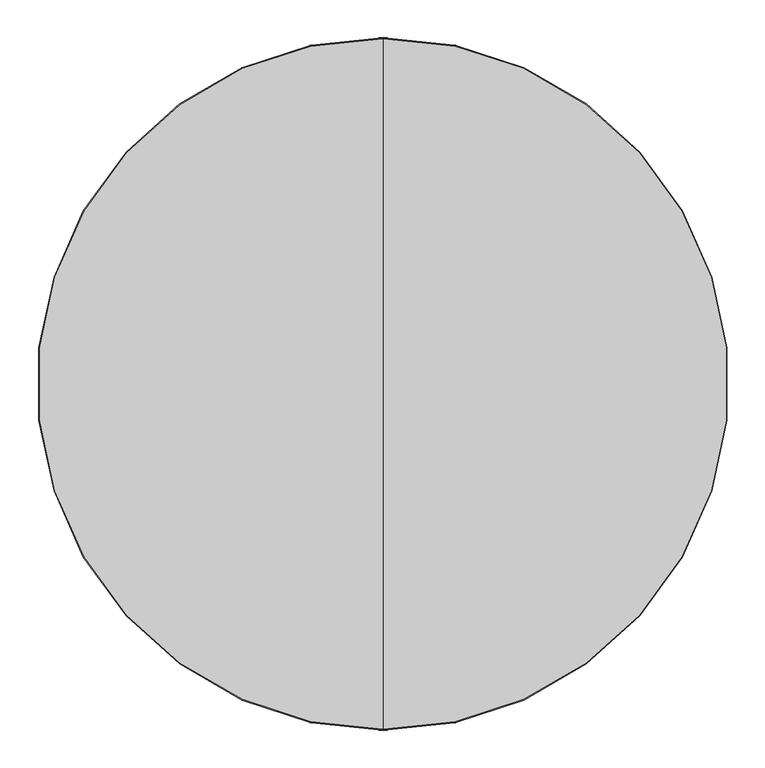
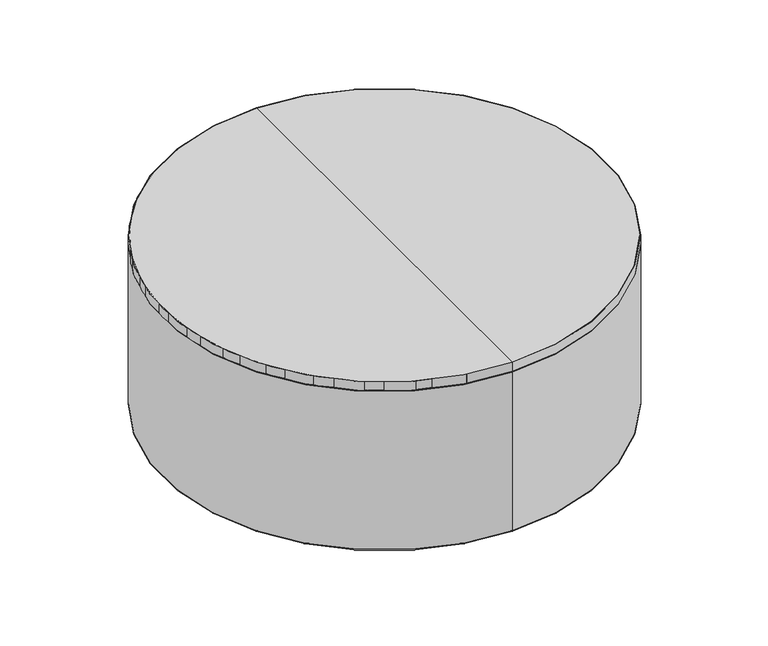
"""IFC4 building model written with IfcOpenShell, lengths in millimetres: furniture geometry, Indiana-Otty-Ottoman_Round_Table : 840-3615ROT."""

from ifc_helpers import new_model, si_unit, point, frame, origin, place, context, project, spatial, polyline, circle_curve, ellipse_curve, trimmed, source, transform, mapped, element, save
from ifc_brep_helpers import plane_surface, cylinder_surface, revolved_surface, advanced_brep


def furniture_d7e150b2(model_context):
    return source(origin(), model_context, "Body", "AdvancedBrep", [
        advanced_brep(
        [(374.4189295, 85.5904719, 19.8875), (354.9333579, 96.8404719, 19.8875), (393.9045011, 74.3404719, 19.8875), (355.3217632, 96.616226, 4.2458827), (393.5160958, 74.5647178, 4.2458827), (359.2060099, 94.3736551, -0.1125), (389.6318491, 76.8072887, -0.1125), (365.5269116, 90.7242808, -0.1125), (383.3109474, 80.456663, -0.1125), (368.8996269, 88.7770427, 3.9179615), (379.9382321, 82.4039011, 3.9179615), (374.4189295, 85.5904719, 3.9179615)],
        [
            (0, 1),
            (1, 2, circle_curve(frame((374.4189295, 85.5904719, 19.8875), z_axis=(0.0, 0.0, 1.0), x_axis=(-0.8660254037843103, 0.5000000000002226, 0.0)), 22.5)),
            (2, 0),
            (2, 1, circle_curve(frame((374.4189295, 85.5904719, 19.8875), z_axis=(0.0, 0.0, 1.0), x_axis=(-0.8660254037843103, 0.5000000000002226, 0.0)), 22.5)),
            (1, 3),
            (3, 4, circle_curve(frame((374.4189295, 85.5904719, 4.2458827), z_axis=(0.0, 0.0, 1.0), x_axis=(-0.8660254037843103, 0.5000000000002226, 0.0)), 22.0515082)),
            (4, 2),
            (4, 3, circle_curve(frame((374.4189295, 85.5904719, 4.2458827), z_axis=(0.0, 0.0, 1.0), x_axis=(-0.8660254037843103, 0.5000000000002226, 0.0)), 22.0515082)),
            (3, 5, circle_curve(frame((359.2060099, 94.3736551, 4.3744851), z_axis=(-0.5000000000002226, -0.8660254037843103, 0.0), x_axis=(0.8660254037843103, -0.5000000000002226, 0.0)), 4.4869851)),
            (5, 6, circle_curve(frame((374.4189295, 85.5904719, -0.1125), z_axis=(0.0, 0.0, 1.0), x_axis=(-0.8660254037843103, 0.5000000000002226, 0.0)), 17.5663665)),
            (6, 4, circle_curve(frame((389.6318491, 76.8072887, 4.3744851), z_axis=(-0.5000000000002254, -0.8660254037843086, 0.0), x_axis=(-0.8660254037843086, 0.5000000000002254, 0.0)), 4.4869851)),
            (6, 5, circle_curve(frame((374.4189295, 85.5904719, -0.1125), z_axis=(0.0, 0.0, 1.0), x_axis=(-0.8660254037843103, 0.5000000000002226, 0.0)), 17.5663665)),
            (5, 7),
            (7, 8, circle_curve(frame((374.4189295, 85.5904719, -0.1125), z_axis=(0.0, 0.0, 1.0), x_axis=(-0.8660254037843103, 0.5000000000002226, 0.0)), 10.2676178)),
            (8, 6),
            (8, 7, circle_curve(frame((374.4189295, 85.5904719, -0.1125), z_axis=(0.0, 0.0, 1.0), x_axis=(-0.8660254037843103, 0.5000000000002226, 0.0)), 10.2676178)),
            (7, 9, circle_curve(frame((365.5269116, 90.7242808, 3.7842702), z_axis=(-0.5000000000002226, -0.8660254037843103, 0.0), x_axis=(0.8660254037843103, -0.5000000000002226, 0.0)), 3.8967702)),
            (9, 10, circle_curve(frame((374.4189295, 85.5904719, 3.9179615), z_axis=(0.0, 0.0, 1.0), x_axis=(-0.8660254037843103, 0.5000000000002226, 0.0)), 6.3731417)),
            (10, 8, circle_curve(frame((383.3109474, 80.456663, 3.7842702), z_axis=(-0.5000000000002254, -0.8660254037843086, 0.0), x_axis=(-0.8660254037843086, 0.5000000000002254, 0.0)), 3.8967702)),
            (10, 9, circle_curve(frame((374.4189295, 85.5904719, 3.9179615), z_axis=(0.0, 0.0, 1.0), x_axis=(-0.8660254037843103, 0.5000000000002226, 0.0)), 6.3731417)),
            (9, 11),
            (11, 10),
        ],
        [
            plane_surface(frame((374.4189295, 85.5904719, 19.8875), z_axis=(0.0, 0.0, 1.0000000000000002), x_axis=(-0.8660254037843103, 0.5000000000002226, 0.0))),
            revolved_surface(polyline([(355.3217632, 96.616226, 4.2458827), (354.9333579, 96.8404719, 19.8875)]), (374.4189295, 85.5904719, 31.0803862), (0.0, 0.0, 1.0)),
            revolved_surface(trimmed(ellipse_curve(frame((359.2060099, 94.3736551, 4.3744851), z_axis=(0.5000000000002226, 0.8660254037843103, 0.0), x_axis=(0.8660254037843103, -0.5000000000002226, 0.0)), 4.4869851, 4.4869851), [point((359.2060099, 94.3736551, -0.1125))], [point((355.3217632, 96.616226, 4.2458827))], True, "CARTESIAN"), (374.4189295, 85.5904719, 31.0803862), (0.0, 0.0, 1.0)),
            plane_surface(frame((374.4189295, 85.5904719, -0.1125), z_axis=(0.0, 0.0, -1.0000000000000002), x_axis=(-0.8660254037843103, 0.5000000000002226, 0.0))),
            revolved_surface(trimmed(ellipse_curve(frame((365.5269116, 90.7242808, 3.7842702), z_axis=(0.5000000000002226, 0.8660254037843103, 0.0), x_axis=(0.8660254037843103, -0.5000000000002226, 0.0)), 3.8967702, 3.8967702), [point((368.8996269, 88.7770427, 3.9179615))], [point((365.5269116, 90.7242808, -0.1125))], True, "CARTESIAN"), (374.4189295, 85.5904719, 31.0803862), (0.0, 0.0, 1.0)),
            plane_surface(frame((374.4189295, 85.5904719, 3.9179615), z_axis=(0.0, 0.0, -1.0000000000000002), x_axis=(-0.8660254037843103, 0.5000000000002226, 0.0))),
        ],
        [
            (0, [[1, 2, 3]]),
            (0, [[-3, 4, -1]]),
            (1, [[-2, 5, 6, 7]]),
            (1, [[-4, -7, 8, -5]]),
            (2, [[-6, 9, 10, 11]]),
            (2, [[-8, -11, 12, -9]]),
            (3, [[-10, 13, 14, 15]]),
            (3, [[-12, -15, 16, -13]]),
            (4, [[-14, 17, 18, 19]]),
            (4, [[-16, -19, 20, -17]]),
            (5, [[-18, 21, 22]]),
            (5, [[-20, -22, -21]]),
        ],
    ),
        advanced_brep(
        [(261.3329878, -281.4610687, 19.8875), (261.3329878, -258.9610687, 19.8875), (261.3329878, -303.9610687, 19.8875), (261.3329878, -259.4095604, 4.2458827), (261.3329878, -303.5125769, 4.2458827), (261.3329878, -263.8947022, -0.1125), (261.3329878, -299.0274351, -0.1125), (261.3329878, -271.1934508, -0.1125), (261.3329878, -291.7286865, -0.1125), (261.3329878, -275.087927, 3.9179615), (261.3329878, -287.8342103, 3.9179615), (261.3329878, -281.4610687, 3.9179615)],
        [
            (0, 1),
            (1, 2, circle_curve(frame((261.3329878, -281.4610687, 19.8875), z_axis=(0.0, 0.0, 1.0), x_axis=(0.0, 1.0, 0.0)), 22.5)),
            (2, 0),
            (2, 1, circle_curve(frame((261.3329878, -281.4610687, 19.8875), z_axis=(0.0, 0.0, 1.0), x_axis=(0.0, 1.0, 0.0)), 22.5)),
            (1, 3),
            (3, 4, circle_curve(frame((261.3329878, -281.4610687, 4.2458827), z_axis=(0.0, 0.0, 1.0), x_axis=(0.0, 1.0, 0.0)), 22.0515082)),
            (4, 2),
            (4, 3, circle_curve(frame((261.3329878, -281.4610687, 4.2458827), z_axis=(0.0, 0.0, 1.0), x_axis=(0.0, 1.0, 0.0)), 22.0515082)),
            (3, 5, circle_curve(frame((261.3329878, -263.8947022, 4.3744851), z_axis=(-1.0, 0.0, 0.0), x_axis=(0.0, -1.0, 0.0)), 4.4869851)),
            (5, 6, circle_curve(frame((261.3329878, -281.4610687, -0.1125), z_axis=(0.0, 0.0, 1.0), x_axis=(0.0, 1.0, 0.0)), 17.5663665)),
            (6, 4, circle_curve(frame((261.3329878, -299.0274351, 4.3744851), z_axis=(-1.0, 0.0, 0.0), x_axis=(0.0, 1.0, 0.0)), 4.4869851)),
            (6, 5, circle_curve(frame((261.3329878, -281.4610687, -0.1125), z_axis=(0.0, 0.0, 1.0), x_axis=(0.0, 1.0, 0.0)), 17.5663665)),
            (5, 7),
            (7, 8, circle_curve(frame((261.3329878, -281.4610687, -0.1125), z_axis=(0.0, 0.0, 1.0), x_axis=(0.0, 1.0, 0.0)), 10.2676178)),
            (8, 6),
            (8, 7, circle_curve(frame((261.3329878, -281.4610687, -0.1125), z_axis=(0.0, 0.0, 1.0), x_axis=(0.0, 1.0, 0.0)), 10.2676178)),
            (7, 9, circle_curve(frame((261.3329878, -271.1934508, 3.7842702), z_axis=(-1.0, 0.0, 0.0), x_axis=(0.0, -1.0, 0.0)), 3.8967702)),
            (9, 10, circle_curve(frame((261.3329878, -281.4610687, 3.9179615), z_axis=(0.0, 0.0, 1.0), x_axis=(0.0, 1.0, 0.0)), 6.3731417)),
            (10, 8, circle_curve(frame((261.3329878, -291.7286865, 3.7842702), z_axis=(-1.0, 0.0, 0.0), x_axis=(0.0, 1.0, 0.0)), 3.8967702)),
            (10, 9, circle_curve(frame((261.3329878, -281.4610687, 3.9179615), z_axis=(0.0, 0.0, 1.0), x_axis=(0.0, 1.0, 0.0)), 6.3731417)),
            (9, 11),
            (11, 10),
        ],
        [
            plane_surface(frame((261.3329878, -281.4610687, 19.8875), z_axis=(0.0, 0.0, 1.0), x_axis=(0.0, 1.0, 0.0))),
            revolved_surface(polyline([(261.3329878, -259.4095604, 4.2458827), (261.3329878, -258.9610687, 19.8875)]), (261.3329878, -281.4610687, 31.0803862), (0.0, 0.0, 1.0)),
            revolved_surface(trimmed(ellipse_curve(frame((261.3329878, -263.8947022, 4.3744851), z_axis=(1.0, 0.0, 0.0), x_axis=(0.0, -1.0, 0.0)), 4.4869851, 4.4869851), [point((261.3329878, -263.8947022, -0.1125))], [point((261.3329878, -259.4095604, 4.2458827))], True, "CARTESIAN"), (261.3329878, -281.4610687, 31.0803862), (0.0, 0.0, 1.0)),
            plane_surface(frame((261.3329878, -281.4610687, -0.1125), z_axis=(0.0, 0.0, -1.0), x_axis=(0.0, 1.0, 0.0))),
            revolved_surface(trimmed(ellipse_curve(frame((261.3329878, -271.1934508, 3.7842702), z_axis=(1.0, 0.0, 0.0), x_axis=(0.0, -1.0, 0.0)), 3.8967702, 3.8967702), [point((261.3329878, -275.087927, 3.9179615))], [point((261.3329878, -271.1934508, -0.1125))], True, "CARTESIAN"), (261.3329878, -281.4610687, 31.0803862), (0.0, 0.0, 1.0)),
            plane_surface(frame((261.3329878, -281.4610687, 3.9179615), z_axis=(0.0, 0.0, -1.0), x_axis=(0.0, 1.0, 0.0))),
        ],
        [
            (0, [[1, 2, 3]]),
            (0, [[-3, 4, -1]]),
            (1, [[-2, 5, 6, 7]]),
            (1, [[-4, -7, 8, -5]]),
            (2, [[-6, 9, 10, 11]]),
            (2, [[-8, -11, 12, -9]]),
            (3, [[-10, 13, 14, 15]]),
            (3, [[-12, -15, 16, -13]]),
            (4, [[-14, 17, 18, 19]]),
            (4, [[-16, -19, 20, -17]]),
            (5, [[-18, 21, 22]]),
            (5, [[-20, -22, -21]]),
        ],
    ),
        advanced_brep(
        [(0.0, -456.2078125, 361.95), (0.0, 456.2078125, 361.95), (0.0, 0.0, 361.95), (0.0, -456.2078125, 381.0), (0.0, 456.2078125, 381.0), (0.0, 0.0, 381.0)],
        [
            (0, 1, circle_curve(frame((0.0, 0.0, 361.95), z_axis=(0.0, 0.0, -1.0), x_axis=(0.0, 1.0, 0.0)), 456.2078125)),
            (1, 2),
            (2, 0),
            (1, 0, circle_curve(frame((0.0, 0.0, 361.95), z_axis=(0.0, 0.0, -1.0), x_axis=(0.0, 1.0, 0.0)), 456.2078125)),
            (3, 4, circle_curve(frame((0.0, 0.0, 381.0), z_axis=(0.0, 0.0, -1.0), x_axis=(0.0, 1.0, 0.0)), 456.2078125)),
            (4, 1),
            (0, 3),
            (4, 3, circle_curve(frame((0.0, 0.0, 381.0), z_axis=(0.0, 0.0, -1.0), x_axis=(0.0, 1.0, 0.0)), 456.2078125)),
            (5, 4),
            (3, 5),
        ],
        [
            plane_surface(frame((0.0, 0.0, 361.95), z_axis=(0.0, 0.0, -1.0), x_axis=(0.0, 1.0, 0.0))),
            cylinder_surface(frame((0.0, 0.0, 387.35), z_axis=(0.0, 0.0, 1.0), x_axis=(0.0, 1.0, 0.0)), 456.2078125),
            plane_surface(frame((0.0, 0.0, 381.0), z_axis=(0.0, 0.0, 1.0), x_axis=(0.0, 1.0, 0.0))),
        ],
        [
            (0, [[1, 2, 3]]),
            (0, [[4, -3, -2]]),
            (1, [[5, 6, -1, 7]]),
            (1, [[8, -7, -4, -6]]),
            (2, [[9, -5, 10]]),
            (2, [[-10, -8, -9]]),
        ],
    ),
        advanced_brep(
        [(0.0, -456.2078125, 361.95), (0.0, 456.2078125, 361.95), (0.0, 456.2078125, 381.0), (0.0, -456.2078125, 381.0), (0.0, -457.2, 361.95), (0.0, 457.2, 361.95), (0.0, -457.2, 381.0), (0.0, 457.2, 381.0)],
        [
            (0, 1, circle_curve(frame((0.0, 0.0, 361.95), z_axis=(0.0, 0.0, -1.0), x_axis=(0.0, 1.0, 0.0)), 456.2078125)),
            (1, 2),
            (2, 3, circle_curve(frame((0.0, 0.0, 381.0), z_axis=(0.0, 0.0, 1.0), x_axis=(0.0, 1.0, 0.0)), 456.2078125)),
            (3, 0),
            (1, 0, circle_curve(frame((0.0, 0.0, 361.95), z_axis=(0.0, 0.0, -1.0), x_axis=(0.0, 1.0, 0.0)), 456.2078125)),
            (3, 2, circle_curve(frame((0.0, 0.0, 381.0), z_axis=(0.0, 0.0, 1.0), x_axis=(0.0, 1.0, 0.0)), 456.2078125)),
            (4, 5, circle_curve(frame((0.0, 0.0, 361.95), z_axis=(0.0, 0.0, -1.0), x_axis=(0.0, 1.0, 0.0)), 457.2)),
            (5, 1),
            (0, 4),
            (5, 4, circle_curve(frame((0.0, 0.0, 361.95), z_axis=(0.0, 0.0, -1.0), x_axis=(0.0, 1.0, 0.0)), 457.2)),
            (6, 7, circle_curve(frame((0.0, 0.0, 381.0), z_axis=(0.0, 0.0, -1.0), x_axis=(0.0, 1.0, 0.0)), 457.2)),
            (7, 5),
            (4, 6),
            (7, 6, circle_curve(frame((0.0, 0.0, 381.0), z_axis=(0.0, 0.0, -1.0), x_axis=(0.0, 1.0, 0.0)), 457.2)),
            (2, 7),
            (6, 3),
        ],
        [
            revolved_surface(polyline([(0.0, 456.2078125, 381.0), (0.0, 456.2078125, 361.95)]), (0.0, 0.0, 400.05), (0.0, 0.0, 1.0)),
            plane_surface(frame((0.0, 0.0, 361.95), z_axis=(0.0, 0.0, -1.0), x_axis=(0.0, 1.0, 0.0))),
            cylinder_surface(frame((0.0, 0.0, 400.05), z_axis=(0.0, 0.0, 1.0), x_axis=(0.0, 1.0, 0.0)), 457.2),
            plane_surface(frame((0.0, 0.0, 381.0), z_axis=(0.0, 0.0, 1.0), x_axis=(0.0, 1.0, 0.0))),
        ],
        [
            (0, [[1, 2, 3, 4]]),
            (0, [[5, -4, 6, -2]]),
            (1, [[7, 8, -1, 9]]),
            (1, [[10, -9, -5, -8]]),
            (2, [[11, 12, -7, 13]]),
            (2, [[14, -13, -10, -12]]),
            (3, [[-3, 15, -11, 16]]),
            (3, [[-6, -16, -14, -15]]),
        ],
    ),
        advanced_brep(
        [(-113.0859418, -367.0515406, 19.8875), (-93.6003702, -355.8015406, 19.8875), (-132.5715133, -378.3015406, 19.8875), (-93.9887754, -356.0257864, 4.2458827), (-132.1831081, -378.0772947, 4.2458827), (-97.8730221, -358.2683573, -0.1125), (-128.2988614, -375.8347238, -0.1125), (-104.1939239, -361.9177316, -0.1125), (-121.9779596, -372.1853495, -0.1125), (-107.5666392, -363.8649697, 3.9179615), (-118.6052443, -370.2381114, 3.9179615), (-113.0859418, -367.0515406, 3.9179615)],
        [
            (0, 1),
            (1, 2, circle_curve(frame((-113.0859418, -367.0515406, 19.8875), z_axis=(0.0, 0.0, 1.0), x_axis=(0.866025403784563, 0.49999999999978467, 0.0)), 22.5)),
            (2, 0),
            (2, 1, circle_curve(frame((-113.0859418, -367.0515406, 19.8875), z_axis=(0.0, 0.0, 1.0), x_axis=(0.866025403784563, 0.49999999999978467, 0.0)), 22.5)),
            (1, 3),
            (3, 4, circle_curve(frame((-113.0859418, -367.0515406, 4.2458827), z_axis=(0.0, 0.0, 1.0), x_axis=(0.866025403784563, 0.49999999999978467, 0.0)), 22.0515082)),
            (4, 2),
            (4, 3, circle_curve(frame((-113.0859418, -367.0515406, 4.2458827), z_axis=(0.0, 0.0, 1.0), x_axis=(0.866025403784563, 0.49999999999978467, 0.0)), 22.0515082)),
            (3, 5, circle_curve(frame((-97.8730221, -358.2683573, 4.3744851), z_axis=(-0.49999999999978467, 0.866025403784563, 0.0), x_axis=(-0.866025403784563, -0.49999999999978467, 0.0)), 4.4869851)),
            (5, 6, circle_curve(frame((-113.0859418, -367.0515406, -0.1125), z_axis=(0.0, 0.0, 1.0), x_axis=(0.866025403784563, 0.49999999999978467, 0.0)), 17.5663665)),
            (6, 4, circle_curve(frame((-128.2988614, -375.8347238, 4.3744851), z_axis=(-0.4999999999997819, 0.8660254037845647, 0.0), x_axis=(0.8660254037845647, 0.4999999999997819, 0.0)), 4.4869851)),
            (6, 5, circle_curve(frame((-113.0859418, -367.0515406, -0.1125), z_axis=(0.0, 0.0, 1.0), x_axis=(0.866025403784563, 0.49999999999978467, 0.0)), 17.5663665)),
            (5, 7),
            (7, 8, circle_curve(frame((-113.0859418, -367.0515406, -0.1125), z_axis=(0.0, 0.0, 1.0), x_axis=(0.866025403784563, 0.49999999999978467, 0.0)), 10.2676178)),
            (8, 6),
            (8, 7, circle_curve(frame((-113.0859418, -367.0515406, -0.1125), z_axis=(0.0, 0.0, 1.0), x_axis=(0.866025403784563, 0.49999999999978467, 0.0)), 10.2676178)),
            (7, 9, circle_curve(frame((-104.1939239, -361.9177316, 3.7842702), z_axis=(-0.49999999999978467, 0.866025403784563, 0.0), x_axis=(-0.866025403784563, -0.49999999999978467, 0.0)), 3.8967702)),
            (9, 10, circle_curve(frame((-113.0859418, -367.0515406, 3.9179615), z_axis=(0.0, 0.0, 1.0), x_axis=(0.866025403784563, 0.49999999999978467, 0.0)), 6.3731417)),
            (10, 8, circle_curve(frame((-121.9779596, -372.1853495, 3.7842702), z_axis=(-0.4999999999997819, 0.8660254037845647, 0.0), x_axis=(0.8660254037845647, 0.4999999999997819, 0.0)), 3.8967702)),
            (10, 9, circle_curve(frame((-113.0859418, -367.0515406, 3.9179615), z_axis=(0.0, 0.0, 1.0), x_axis=(0.866025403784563, 0.49999999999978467, 0.0)), 6.3731417)),
            (9, 11),
            (11, 10),
        ],
        [
            plane_surface(frame((-113.0859418, -367.0515406, 19.8875), z_axis=(0.0, 0.0, 1.0000000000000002), x_axis=(0.866025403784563, 0.49999999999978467, 0.0))),
            revolved_surface(polyline([(-93.9887754, -356.0257864, 4.2458827), (-93.6003702, -355.8015406, 19.8875)]), (-113.0859418, -367.0515406, 31.0803862), (0.0, 0.0, 1.0)),
            revolved_surface(trimmed(ellipse_curve(frame((-97.8730221, -358.2683573, 4.3744851), z_axis=(0.49999999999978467, -0.866025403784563, 0.0), x_axis=(-0.866025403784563, -0.49999999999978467, 0.0)), 4.4869851, 4.4869851), [point((-97.8730221, -358.2683573, -0.1125))], [point((-93.9887754, -356.0257864, 4.2458827))], True, "CARTESIAN"), (-113.0859418, -367.0515406, 31.0803862), (0.0, 0.0, 1.0)),
            plane_surface(frame((-113.0859418, -367.0515406, -0.1125), z_axis=(0.0, 0.0, -1.0000000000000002), x_axis=(0.866025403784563, 0.49999999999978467, 0.0))),
            revolved_surface(trimmed(ellipse_curve(frame((-104.1939239, -361.9177316, 3.7842702), z_axis=(0.49999999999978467, -0.866025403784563, 0.0), x_axis=(-0.866025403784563, -0.49999999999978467, 0.0)), 3.8967702, 3.8967702), [point((-107.5666392, -363.8649697, 3.9179615))], [point((-104.1939239, -361.9177316, -0.1125))], True, "CARTESIAN"), (-113.0859418, -367.0515406, 31.0803862), (0.0, 0.0, 1.0)),
            plane_surface(frame((-113.0859418, -367.0515406, 3.9179615), z_axis=(0.0, 0.0, -1.0000000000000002), x_axis=(0.866025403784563, 0.49999999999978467, 0.0))),
        ],
        [
            (0, [[1, 2, 3]]),
            (0, [[-3, 4, -1]]),
            (1, [[-2, 5, 6, 7]]),
            (1, [[-4, -7, 8, -5]]),
            (2, [[-6, 9, 10, 11]]),
            (2, [[-8, -11, 12, -9]]),
            (3, [[-10, 13, 14, 15]]),
            (3, [[-12, -15, 16, -13]]),
            (4, [[-14, 17, 18, 19]]),
            (4, [[-16, -19, 20, -17]]),
            (5, [[-18, 21, 22]]),
            (5, [[-20, -22, -21]]),
        ],
    ),
        advanced_brep(
        [(-374.4189295, -85.5904719, 19.8875), (-354.9333579, -96.8404719, 19.8875), (-393.9045011, -74.3404719, 19.8875), (-355.3217632, -96.616226, 4.2458827), (-393.5160958, -74.5647178, 4.2458827), (-359.2060099, -94.3736551, -0.1125), (-389.6318491, -76.8072887, -0.1125), (-365.5269116, -90.7242808, -0.1125), (-383.3109474, -80.456663, -0.1125), (-368.8996269, -88.7770427, 3.9179615), (-379.9382321, -82.4039011, 3.9179615), (-374.4189295, -85.5904719, 3.9179615)],
        [
            (0, 1),
            (1, 2, circle_curve(frame((-374.4189295, -85.5904719, 19.8875), z_axis=(0.0, 0.0, 1.0), x_axis=(0.8660254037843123, -0.500000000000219, 0.0)), 22.5)),
            (2, 0),
            (2, 1, circle_curve(frame((-374.4189295, -85.5904719, 19.8875), z_axis=(0.0, 0.0, 1.0), x_axis=(0.8660254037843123, -0.500000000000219, 0.0)), 22.5)),
            (1, 3),
            (3, 4, circle_curve(frame((-374.4189295, -85.5904719, 4.2458827), z_axis=(0.0, 0.0, 1.0), x_axis=(0.8660254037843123, -0.500000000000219, 0.0)), 22.0515082)),
            (4, 2),
            (4, 3, circle_curve(frame((-374.4189295, -85.5904719, 4.2458827), z_axis=(0.0, 0.0, 1.0), x_axis=(0.8660254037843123, -0.500000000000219, 0.0)), 22.0515082)),
            (3, 5, circle_curve(frame((-359.2060099, -94.3736551, 4.3744851), z_axis=(0.500000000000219, 0.8660254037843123, 0.0), x_axis=(-0.8660254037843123, 0.500000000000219, 0.0)), 4.4869851)),
            (5, 6, circle_curve(frame((-374.4189295, -85.5904719, -0.1125), z_axis=(0.0, 0.0, 1.0), x_axis=(0.8660254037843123, -0.500000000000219, 0.0)), 17.5663665)),
            (6, 4, circle_curve(frame((-389.6318491, -76.8072887, 4.3744851), z_axis=(0.5000000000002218, 0.8660254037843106, 0.0), x_axis=(0.8660254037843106, -0.5000000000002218, 0.0)), 4.4869851)),
            (6, 5, circle_curve(frame((-374.4189295, -85.5904719, -0.1125), z_axis=(0.0, 0.0, 1.0), x_axis=(0.8660254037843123, -0.500000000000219, 0.0)), 17.5663665)),
            (5, 7),
            (7, 8, circle_curve(frame((-374.4189295, -85.5904719, -0.1125), z_axis=(0.0, 0.0, 1.0), x_axis=(0.8660254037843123, -0.500000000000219, 0.0)), 10.2676178)),
            (8, 6),
            (8, 7, circle_curve(frame((-374.4189295, -85.5904719, -0.1125), z_axis=(0.0, 0.0, 1.0), x_axis=(0.8660254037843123, -0.500000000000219, 0.0)), 10.2676178)),
            (7, 9, circle_curve(frame((-365.5269116, -90.7242808, 3.7842702), z_axis=(0.500000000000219, 0.8660254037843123, 0.0), x_axis=(-0.8660254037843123, 0.500000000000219, 0.0)), 3.8967702)),
            (9, 10, circle_curve(frame((-374.4189295, -85.5904719, 3.9179615), z_axis=(0.0, 0.0, 1.0), x_axis=(0.8660254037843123, -0.500000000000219, 0.0)), 6.3731417)),
            (10, 8, circle_curve(frame((-383.3109474, -80.456663, 3.7842702), z_axis=(0.5000000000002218, 0.8660254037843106, 0.0), x_axis=(0.8660254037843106, -0.5000000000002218, 0.0)), 3.8967702)),
            (10, 9, circle_curve(frame((-374.4189295, -85.5904719, 3.9179615), z_axis=(0.0, 0.0, 1.0), x_axis=(0.8660254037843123, -0.500000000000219, 0.0)), 6.3731417)),
            (9, 11),
            (11, 10),
        ],
        [
            plane_surface(frame((-374.4189295, -85.5904719, 19.8875), z_axis=(0.0, 0.0, 1.0), x_axis=(0.8660254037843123, -0.500000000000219, 0.0))),
            revolved_surface(polyline([(-355.3217632, -96.616226, 4.2458827), (-354.9333579, -96.8404719, 19.8875)]), (-374.4189295, -85.5904719, 31.0803862), (0.0, 0.0, 1.0)),
            revolved_surface(trimmed(ellipse_curve(frame((-359.2060099, -94.3736551, 4.3744851), z_axis=(-0.500000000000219, -0.8660254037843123, 0.0), x_axis=(-0.8660254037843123, 0.500000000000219, 0.0)), 4.4869851, 4.4869851), [point((-359.2060099, -94.3736551, -0.1125))], [point((-355.3217632, -96.616226, 4.2458827))], True, "CARTESIAN"), (-374.4189295, -85.5904719, 31.0803862), (0.0, 0.0, 1.0)),
            plane_surface(frame((-374.4189295, -85.5904719, -0.1125), z_axis=(0.0, 0.0, -1.0), x_axis=(0.8660254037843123, -0.500000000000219, 0.0))),
            revolved_surface(trimmed(ellipse_curve(frame((-365.5269116, -90.7242808, 3.7842702), z_axis=(-0.500000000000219, -0.8660254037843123, 0.0), x_axis=(-0.8660254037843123, 0.500000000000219, 0.0)), 3.8967702, 3.8967702), [point((-368.8996269, -88.7770427, 3.9179615))], [point((-365.5269116, -90.7242808, -0.1125))], True, "CARTESIAN"), (-374.4189295, -85.5904719, 31.0803862), (0.0, 0.0, 1.0)),
            plane_surface(frame((-374.4189295, -85.5904719, 3.9179615), z_axis=(0.0, 0.0, -1.0), x_axis=(0.8660254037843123, -0.500000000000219, 0.0))),
        ],
        [
            (0, [[1, 2, 3]]),
            (0, [[-3, 4, -1]]),
            (1, [[-2, 5, 6, 7]]),
            (1, [[-4, -7, 8, -5]]),
            (2, [[-6, 9, 10, 11]]),
            (2, [[-8, -11, 12, -9]]),
            (3, [[-10, 13, 14, 15]]),
            (3, [[-12, -15, 16, -13]]),
            (4, [[-14, 17, 18, 19]]),
            (4, [[-16, -19, 20, -17]]),
            (5, [[-18, 21, 22]]),
            (5, [[-20, -22, -21]]),
        ],
    ),
        advanced_brep(
        [(113.0859418, 367.0515406, 19.8875), (93.6003702, 355.8015406, 19.8875), (132.5715133, 378.3015406, 19.8875), (93.9887754, 356.0257864, 4.2458827), (132.1831081, 378.0772947, 4.2458827), (97.8730221, 358.2683573, -0.1125), (128.2988614, 375.8347238, -0.1125), (104.1939239, 361.9177316, -0.1125), (121.9779596, 372.1853495, -0.1125), (107.5666392, 363.8649697, 3.9179615), (118.6052443, 370.2381114, 3.9179615), (113.0859418, 367.0515406, 3.9179615)],
        [
            (0, 1),
            (1, 2, circle_curve(frame((113.0859418, 367.0515406, 19.8875), z_axis=(0.0, 0.0, 1.0), x_axis=(-0.8660254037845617, -0.4999999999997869, 0.0)), 22.5)),
            (2, 0),
            (2, 1, circle_curve(frame((113.0859418, 367.0515406, 19.8875), z_axis=(0.0, 0.0, 1.0), x_axis=(-0.8660254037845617, -0.4999999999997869, 0.0)), 22.5)),
            (1, 3),
            (3, 4, circle_curve(frame((113.0859418, 367.0515406, 4.2458827), z_axis=(0.0, 0.0, 1.0), x_axis=(-0.8660254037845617, -0.4999999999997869, 0.0)), 22.0515082)),
            (4, 2),
            (4, 3, circle_curve(frame((113.0859418, 367.0515406, 4.2458827), z_axis=(0.0, 0.0, 1.0), x_axis=(-0.8660254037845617, -0.4999999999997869, 0.0)), 22.0515082)),
            (3, 5, circle_curve(frame((97.8730221, 358.2683573, 4.3744851), z_axis=(0.4999999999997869, -0.8660254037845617, 0.0), x_axis=(0.8660254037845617, 0.4999999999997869, 0.0)), 4.4869851)),
            (5, 6, circle_curve(frame((113.0859418, 367.0515406, -0.1125), z_axis=(0.0, 0.0, 1.0), x_axis=(-0.8660254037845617, -0.4999999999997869, 0.0)), 17.5663665)),
            (6, 4, circle_curve(frame((128.2988614, 375.8347238, 4.3744851), z_axis=(0.4999999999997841, -0.8660254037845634, 0.0), x_axis=(-0.8660254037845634, -0.4999999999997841, 0.0)), 4.4869851)),
            (6, 5, circle_curve(frame((113.0859418, 367.0515406, -0.1125), z_axis=(0.0, 0.0, 1.0), x_axis=(-0.8660254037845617, -0.4999999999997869, 0.0)), 17.5663665)),
            (5, 7),
            (7, 8, circle_curve(frame((113.0859418, 367.0515406, -0.1125), z_axis=(0.0, 0.0, 1.0), x_axis=(-0.8660254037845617, -0.4999999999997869, 0.0)), 10.2676178)),
            (8, 6),
            (8, 7, circle_curve(frame((113.0859418, 367.0515406, -0.1125), z_axis=(0.0, 0.0, 1.0), x_axis=(-0.8660254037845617, -0.4999999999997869, 0.0)), 10.2676178)),
            (7, 9, circle_curve(frame((104.1939239, 361.9177316, 3.7842702), z_axis=(0.4999999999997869, -0.8660254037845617, 0.0), x_axis=(0.8660254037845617, 0.4999999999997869, 0.0)), 3.8967702)),
            (9, 10, circle_curve(frame((113.0859418, 367.0515406, 3.9179615), z_axis=(0.0, 0.0, 1.0), x_axis=(-0.8660254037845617, -0.4999999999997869, 0.0)), 6.3731417)),
            (10, 8, circle_curve(frame((121.9779596, 372.1853495, 3.7842702), z_axis=(0.4999999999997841, -0.8660254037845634, 0.0), x_axis=(-0.8660254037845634, -0.4999999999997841, 0.0)), 3.8967702)),
            (10, 9, circle_curve(frame((113.0859418, 367.0515406, 3.9179615), z_axis=(0.0, 0.0, 1.0), x_axis=(-0.8660254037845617, -0.4999999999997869, 0.0)), 6.3731417)),
            (9, 11),
            (11, 10),
        ],
        [
            plane_surface(frame((113.0859418, 367.0515406, 19.8875), z_axis=(0.0, 0.0, 1.0), x_axis=(-0.8660254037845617, -0.4999999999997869, 0.0))),
            revolved_surface(polyline([(93.9887754, 356.0257864, 4.2458827), (93.6003702, 355.8015406, 19.8875)]), (113.0859418, 367.0515406, 31.0803862), (0.0, 0.0, 1.0)),
            revolved_surface(trimmed(ellipse_curve(frame((97.8730221, 358.2683573, 4.3744851), z_axis=(-0.4999999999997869, 0.8660254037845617, 0.0), x_axis=(0.8660254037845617, 0.4999999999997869, 0.0)), 4.4869851, 4.4869851), [point((97.8730221, 358.2683573, -0.1125))], [point((93.9887754, 356.0257864, 4.2458827))], True, "CARTESIAN"), (113.0859418, 367.0515406, 31.0803862), (0.0, 0.0, 1.0)),
            plane_surface(frame((113.0859418, 367.0515406, -0.1125), z_axis=(0.0, 0.0, -1.0), x_axis=(-0.8660254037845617, -0.4999999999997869, 0.0))),
            revolved_surface(trimmed(ellipse_curve(frame((104.1939239, 361.9177316, 3.7842702), z_axis=(-0.4999999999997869, 0.8660254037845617, 0.0), x_axis=(0.8660254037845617, 0.4999999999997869, 0.0)), 3.8967702, 3.8967702), [point((107.5666392, 363.8649697, 3.9179615))], [point((104.1939239, 361.9177316, -0.1125))], True, "CARTESIAN"), (113.0859418, 367.0515406, 31.0803862), (0.0, 0.0, 1.0)),
            plane_surface(frame((113.0859418, 367.0515406, 3.9179615), z_axis=(0.0, 0.0, -1.0), x_axis=(-0.8660254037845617, -0.4999999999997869, 0.0))),
        ],
        [
            (0, [[1, 2, 3]]),
            (0, [[-3, 4, -1]]),
            (1, [[-2, 5, 6, 7]]),
            (1, [[-4, -7, 8, -5]]),
            (2, [[-6, 9, 10, 11]]),
            (2, [[-8, -11, 12, -9]]),
            (3, [[-10, 13, 14, 15]]),
            (3, [[-12, -15, 16, -13]]),
            (4, [[-14, 17, 18, 19]]),
            (4, [[-16, -19, 20, -17]]),
            (5, [[-18, 21, 22]]),
            (5, [[-20, -22, -21]]),
        ],
    ),
        advanced_brep(
        [(-261.3329878, 281.4610687, 19.8875), (-261.3329878, 258.9610687, 19.8875), (-261.3329878, 303.9610687, 19.8875), (-261.3329878, 259.4095604, 4.2458827), (-261.3329878, 303.5125769, 4.2458827), (-261.3329878, 263.8947022, -0.1125), (-261.3329878, 299.0274351, -0.1125), (-261.3329878, 271.1934508, -0.1125), (-261.3329878, 291.7286865, -0.1125), (-261.3329878, 275.087927, 3.9179615), (-261.3329878, 287.8342103, 3.9179615), (-261.3329878, 281.4610687, 3.9179615)],
        [
            (0, 1),
            (1, 2, circle_curve(frame((-261.3329878, 281.4610687, 19.8875), z_axis=(0.0, 0.0, 1.0), x_axis=(0.0, -1.0, 0.0)), 22.5)),
            (2, 0),
            (2, 1, circle_curve(frame((-261.3329878, 281.4610687, 19.8875), z_axis=(0.0, 0.0, 1.0), x_axis=(0.0, -1.0, 0.0)), 22.5)),
            (1, 3),
            (3, 4, circle_curve(frame((-261.3329878, 281.4610687, 4.2458827), z_axis=(0.0, 0.0, 1.0), x_axis=(0.0, -1.0, 0.0)), 22.0515082)),
            (4, 2),
            (4, 3, circle_curve(frame((-261.3329878, 281.4610687, 4.2458827), z_axis=(0.0, 0.0, 1.0), x_axis=(0.0, -1.0, 0.0)), 22.0515082)),
            (3, 5, circle_curve(frame((-261.3329878, 263.8947022, 4.3744851), z_axis=(1.0, 0.0, 0.0), x_axis=(0.0, 1.0, 0.0)), 4.4869851)),
            (5, 6, circle_curve(frame((-261.3329878, 281.4610687, -0.1125), z_axis=(0.0, 0.0, 1.0), x_axis=(0.0, -1.0, 0.0)), 17.5663665)),
            (6, 4, circle_curve(frame((-261.3329878, 299.0274351, 4.3744851), z_axis=(1.0, 0.0, 0.0), x_axis=(0.0, -1.0, 0.0)), 4.4869851)),
            (6, 5, circle_curve(frame((-261.3329878, 281.4610687, -0.1125), z_axis=(0.0, 0.0, 1.0), x_axis=(0.0, -1.0, 0.0)), 17.5663665)),
            (5, 7),
            (7, 8, circle_curve(frame((-261.3329878, 281.4610687, -0.1125), z_axis=(0.0, 0.0, 1.0), x_axis=(0.0, -1.0, 0.0)), 10.2676178)),
            (8, 6),
            (8, 7, circle_curve(frame((-261.3329878, 281.4610687, -0.1125), z_axis=(0.0, 0.0, 1.0), x_axis=(0.0, -1.0, 0.0)), 10.2676178)),
            (7, 9, circle_curve(frame((-261.3329878, 271.1934508, 3.7842702), z_axis=(1.0, 0.0, 0.0), x_axis=(0.0, 1.0, 0.0)), 3.8967702)),
            (9, 10, circle_curve(frame((-261.3329878, 281.4610687, 3.9179615), z_axis=(0.0, 0.0, 1.0), x_axis=(0.0, -1.0, 0.0)), 6.3731417)),
            (10, 8, circle_curve(frame((-261.3329878, 291.7286865, 3.7842702), z_axis=(1.0, 0.0, 0.0), x_axis=(0.0, -1.0, 0.0)), 3.8967702)),
            (10, 9, circle_curve(frame((-261.3329878, 281.4610687, 3.9179615), z_axis=(0.0, 0.0, 1.0), x_axis=(0.0, -1.0, 0.0)), 6.3731417)),
            (9, 11),
            (11, 10),
        ],
        [
            plane_surface(frame((-261.3329878, 281.4610687, 19.8875), z_axis=(0.0, 0.0, 1.0), x_axis=(0.0, -1.0, 0.0))),
            revolved_surface(polyline([(-261.3329878, 259.4095604, 4.2458827), (-261.3329878, 258.9610687, 19.8875)]), (-261.3329878, 281.4610687, 31.0803862), (0.0, 0.0, 1.0)),
            revolved_surface(trimmed(ellipse_curve(frame((-261.3329878, 263.8947022, 4.3744851), z_axis=(-1.0, 0.0, 0.0), x_axis=(0.0, 1.0, 0.0)), 4.4869851, 4.4869851), [point((-261.3329878, 263.8947022, -0.1125))], [point((-261.3329878, 259.4095604, 4.2458827))], True, "CARTESIAN"), (-261.3329878, 281.4610687, 31.0803862), (0.0, 0.0, 1.0)),
            plane_surface(frame((-261.3329878, 281.4610687, -0.1125), z_axis=(0.0, 0.0, -1.0), x_axis=(0.0, -1.0, 0.0))),
            revolved_surface(trimmed(ellipse_curve(frame((-261.3329878, 271.1934508, 3.7842702), z_axis=(-1.0, 0.0, 0.0), x_axis=(0.0, 1.0, 0.0)), 3.8967702, 3.8967702), [point((-261.3329878, 275.087927, 3.9179615))], [point((-261.3329878, 271.1934508, -0.1125))], True, "CARTESIAN"), (-261.3329878, 281.4610687, 31.0803862), (0.0, 0.0, 1.0)),
            plane_surface(frame((-261.3329878, 281.4610687, 3.9179615), z_axis=(0.0, 0.0, -1.0), x_axis=(0.0, -1.0, 0.0))),
        ],
        [
            (0, [[1, 2, 3]]),
            (0, [[-3, 4, -1]]),
            (1, [[-2, 5, 6, 7]]),
            (1, [[-4, -7, 8, -5]]),
            (2, [[-6, 9, 10, 11]]),
            (2, [[-8, -11, 12, -9]]),
            (3, [[-10, 13, 14, 15]]),
            (3, [[-12, -15, 16, -13]]),
            (4, [[-14, 17, 18, 19]]),
            (4, [[-16, -19, 20, -17]]),
            (5, [[-18, 21, 22]]),
            (5, [[-20, -22, -21]]),
        ],
    ),
        advanced_brep(
        [(0.0, 457.2, 14.675), (0.0, 454.025, 11.5), (0.0, -454.025, 11.5), (0.0, -457.2, 14.675), (0.0, 457.2, 359.965625), (0.0, -457.2, 359.965625), (0.0, 0.0, 361.95), (0.0, 455.215625, 361.95), (0.0, -455.215625, 361.95), (0.0, 0.0, 11.5), (-385.9283045, -105.5252942, 11.5), (-362.9095545, -65.6556496, 11.5), (-101.5765668, -386.9863628, 11.5), (-124.5953168, -347.1167183, 11.5), (-284.3517378, 281.4610687, 11.5), (-238.3142378, 281.4610687, 11.5), (101.5765668, 386.9863628, 11.5), (124.5953168, 347.1167183, 11.5), (284.3517378, -281.4610687, 11.5), (238.3142378, -281.4610687, 11.5), (385.9283045, 105.5252942, 11.5), (362.9095545, 65.6556496, 11.5), (-362.9095545, -65.6556496, 19.834375), (-385.9283045, -105.5252942, 19.834375), (-124.5953168, -347.1167183, 19.834375), (-101.5765668, -386.9863628, 19.834375), (124.5953168, 347.1167183, 19.834375), (101.5765668, 386.9863628, 19.834375), (-238.3142378, 281.4610687, 19.834375), (-284.3517378, 281.4610687, 19.834375), (238.3142378, -281.4610687, 19.834375), (284.3517378, -281.4610687, 19.834375), (362.9095545, 65.6556496, 19.834375), (385.9283045, 105.5252942, 19.834375)],
        [
            (0, 1, circle_curve(frame((0.0, 454.025, 14.675), z_axis=(-1.0, 0.0, 0.0), x_axis=(0.0, 1.0, 0.0)), 3.175)),
            (1, 2, circle_curve(frame((0.0, 0.0, 11.5), z_axis=(0.0, 0.0, 1.0), x_axis=(0.0, 1.0, 0.0)), 454.025)),
            (2, 3, circle_curve(frame((0.0, -454.025, 14.675), z_axis=(-1.0, 0.0, 0.0), x_axis=(0.0, -1.0, 0.0)), 3.175)),
            (3, 0, circle_curve(frame((0.0, 0.0, 14.675), z_axis=(0.0, 0.0, -1.0), x_axis=(0.0, 1.0, 0.0)), 457.2)),
            (0, 3, circle_curve(frame((0.0, 0.0, 14.675), z_axis=(0.0, 0.0, -1.0), x_axis=(0.0, 1.0, 0.0)), 457.2)),
            (2, 1, circle_curve(frame((0.0, 0.0, 11.5), z_axis=(0.0, 0.0, 1.0), x_axis=(0.0, 1.0, 0.0)), 454.025)),
            (4, 0),
            (3, 5),
            (5, 4, circle_curve(frame((0.0, 0.0, 359.965625), z_axis=(0.0, 0.0, -1.0), x_axis=(0.0, 1.0, 0.0)), 457.2)),
            (4, 5, circle_curve(frame((0.0, 0.0, 359.965625), z_axis=(0.0, 0.0, -1.0), x_axis=(0.0, 1.0, 0.0)), 457.2)),
            (6, 7),
            (7, 8, circle_curve(frame((0.0, 0.0, 361.95), z_axis=(0.0, 0.0, 1.0), x_axis=(0.0, 1.0, 0.0)), 455.215625)),
            (8, 6),
            (8, 7, circle_curve(frame((0.0, 0.0, 361.95), z_axis=(0.0, 0.0, 1.0), x_axis=(0.0, 1.0, 0.0)), 455.215625)),
            (1, 9),
            (9, 2),
            (10, 11, circle_curve(frame((-374.4189295, -85.5904719, 11.5), z_axis=(0.0, 0.0, 1.0), x_axis=(-0.500000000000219, -0.8660254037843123, 0.0)), 23.01875)),
            (11, 10, circle_curve(frame((-374.4189295, -85.5904719, 11.5), z_axis=(0.0, 0.0, 1.0), x_axis=(-0.500000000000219, -0.8660254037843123, 0.0)), 23.01875)),
            (12, 13, circle_curve(frame((-113.0859418, -367.0515406, 11.5), z_axis=(0.0, 0.0, 1.0), x_axis=(0.49999999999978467, -0.866025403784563, 0.0)), 23.01875)),
            (13, 12, circle_curve(frame((-113.0859418, -367.0515406, 11.5), z_axis=(0.0, 0.0, 1.0), x_axis=(0.49999999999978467, -0.866025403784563, 0.0)), 23.01875)),
            (14, 15, circle_curve(frame((-261.3329878, 281.4610687, 11.5), z_axis=(0.0, 0.0, 1.0), x_axis=(-1.0, 0.0, 0.0)), 23.01875)),
            (15, 14, circle_curve(frame((-261.3329878, 281.4610687, 11.5), z_axis=(0.0, 0.0, 1.0), x_axis=(-1.0, 0.0, 0.0)), 23.01875)),
            (16, 17, circle_curve(frame((113.0859418, 367.0515406, 11.5), z_axis=(0.0, 0.0, 1.0), x_axis=(-0.4999999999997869, 0.8660254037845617, 0.0)), 23.01875)),
            (17, 16, circle_curve(frame((113.0859418, 367.0515406, 11.5), z_axis=(0.0, 0.0, 1.0), x_axis=(-0.4999999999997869, 0.8660254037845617, 0.0)), 23.01875)),
            (18, 19, circle_curve(frame((261.3329878, -281.4610687, 11.5), z_axis=(0.0, 0.0, 1.0), x_axis=(1.0, 0.0, 0.0)), 23.01875)),
            (19, 18, circle_curve(frame((261.3329878, -281.4610687, 11.5), z_axis=(0.0, 0.0, 1.0), x_axis=(1.0, 0.0, 0.0)), 23.01875)),
            (20, 21, circle_curve(frame((374.4189295, 85.5904719, 11.5), z_axis=(0.0, 0.0, 1.0), x_axis=(0.5000000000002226, 0.8660254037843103, 0.0)), 23.01875)),
            (21, 20, circle_curve(frame((374.4189295, 85.5904719, 11.5), z_axis=(0.0, 0.0, 1.0), x_axis=(0.5000000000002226, 0.8660254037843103, 0.0)), 23.01875)),
            (22, 23, circle_curve(frame((-374.4189295, -85.5904719, 19.834375), z_axis=(0.0, 0.0, -1.0), x_axis=(-0.500000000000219, -0.8660254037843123, 0.0)), 23.01875)),
            (23, 22, circle_curve(frame((-374.4189295, -85.5904719, 19.834375), z_axis=(0.0, 0.0, -1.0), x_axis=(-0.500000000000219, -0.8660254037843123, 0.0)), 23.01875)),
            (22, 11),
            (10, 23),
            (24, 25, circle_curve(frame((-113.0859418, -367.0515406, 19.834375), z_axis=(0.0, 0.0, -1.0), x_axis=(0.49999999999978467, -0.866025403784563, 0.0)), 23.01875)),
            (25, 24, circle_curve(frame((-113.0859418, -367.0515406, 19.834375), z_axis=(0.0, 0.0, -1.0), x_axis=(0.49999999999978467, -0.866025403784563, 0.0)), 23.01875)),
            (24, 13),
            (12, 25),
            (26, 27, circle_curve(frame((113.0859418, 367.0515406, 19.834375), z_axis=(0.0, 0.0, -1.0), x_axis=(-0.4999999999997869, 0.8660254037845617, 0.0)), 23.01875)),
            (27, 26, circle_curve(frame((113.0859418, 367.0515406, 19.834375), z_axis=(0.0, 0.0, -1.0), x_axis=(-0.4999999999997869, 0.8660254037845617, 0.0)), 23.01875)),
            (26, 17),
            (16, 27),
            (7, 4, circle_curve(frame((0.0, 455.215625, 359.965625), z_axis=(-1.0, 0.0, 0.0), x_axis=(0.0, 1.0, 0.0)), 1.984375)),
            (5, 8, circle_curve(frame((0.0, -455.215625, 359.965625), z_axis=(-1.0, 0.0, 0.0), x_axis=(0.0, -1.0, 0.0)), 1.984375)),
            (28, 29, circle_curve(frame((-261.3329878, 281.4610687, 19.834375), z_axis=(0.0, 0.0, -1.0), x_axis=(-1.0, 0.0, 0.0)), 23.01875)),
            (29, 28, circle_curve(frame((-261.3329878, 281.4610687, 19.834375), z_axis=(0.0, 0.0, -1.0), x_axis=(-1.0, 0.0, 0.0)), 23.01875)),
            (28, 15),
            (14, 29),
            (30, 31, circle_curve(frame((261.3329878, -281.4610687, 19.834375), z_axis=(0.0, 0.0, -1.0), x_axis=(1.0, 0.0, 0.0)), 23.01875)),
            (31, 30, circle_curve(frame((261.3329878, -281.4610687, 19.834375), z_axis=(0.0, 0.0, -1.0), x_axis=(1.0, 0.0, 0.0)), 23.01875)),
            (30, 19),
            (18, 31),
            (32, 33, circle_curve(frame((374.4189295, 85.5904719, 19.834375), z_axis=(0.0, 0.0, -1.0), x_axis=(0.5000000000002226, 0.8660254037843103, 0.0)), 23.01875)),
            (33, 32, circle_curve(frame((374.4189295, 85.5904719, 19.834375), z_axis=(0.0, 0.0, -1.0), x_axis=(0.5000000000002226, 0.8660254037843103, 0.0)), 23.01875)),
            (32, 21),
            (20, 33),
        ],
        [
            revolved_surface(trimmed(ellipse_curve(frame((0.0, 454.025, 14.675), z_axis=(1.0, 0.0, 0.0), x_axis=(0.0, 1.0, 0.0)), 3.175, 3.175), [point((0.0, 454.025, 11.5))], [point((0.0, 457.2, 14.675))], True, "CARTESIAN"), (0.0, 0.0, 615.95), (0.0, 0.0, 1.0)),
            cylinder_surface(frame((0.0, 0.0, 615.95), z_axis=(0.0, 0.0, 1.0), x_axis=(0.0, 1.0, 0.0)), 457.2),
            plane_surface(frame((0.0, 0.0, 361.95), z_axis=(0.0, 0.0, 1.0), x_axis=(0.0, 1.0, 0.0))),
            plane_surface(frame((0.0, 0.0, 11.5), z_axis=(0.0, 0.0, -1.0), x_axis=(0.0, 1.0, 0.0))),
            plane_surface(frame((-385.9283045, -105.5252942, 19.834375), z_axis=(0.0, 0.0, -1.0), x_axis=(0.8660254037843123, -0.500000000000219, 0.0))),
            revolved_surface(polyline([(-385.928304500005, -105.52529416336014, 11.5), (-385.928304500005, -105.52529416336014, 19.834375)]), (-374.4189295, -85.5904719, 19.834375), (0.0, 0.0, -1.0)),
            plane_surface(frame((-101.5765668, -386.9863628, 19.834375), z_axis=(0.0, 0.0, -1.0000000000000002), x_axis=(0.866025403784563, 0.49999999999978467, 0.0))),
            revolved_surface(polyline([(-101.57656680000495, -386.9863628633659, 11.5), (-101.57656680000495, -386.9863628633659, 19.834375)]), (-113.0859418, -367.0515406, 19.834375), (0.0, 0.0, -1.0)),
            plane_surface(frame((101.5765668, 386.9863628, 19.834375), z_axis=(0.0, 0.0, -1.0), x_axis=(-0.8660254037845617, -0.4999999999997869, 0.0))),
            revolved_surface(polyline([(101.57656680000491, 386.9863628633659, 11.5), (101.57656680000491, 386.9863628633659, 19.834375)]), (113.0859418, 367.0515406, 19.834375), (0.0, 0.0, -1.0)),
            revolved_surface(trimmed(ellipse_curve(frame((0.0, 455.215625, 359.965625), z_axis=(1.0, 0.0, 0.0), x_axis=(0.0, 1.0, 0.0)), 1.984375, 1.984375), [point((0.0, 457.2, 359.965625))], [point((0.0, 455.215625, 361.95))], True, "CARTESIAN"), (0.0, 0.0, 615.95), (0.0, 0.0, 1.0)),
            plane_surface(frame((-284.3517378, 281.4610687, 19.834375), z_axis=(0.0, 0.0, -1.0), x_axis=(0.0, -1.0, 0.0))),
            revolved_surface(polyline([(-284.3517378, 281.4610687, 11.5), (-284.3517378, 281.4610687, 19.834375)]), (-261.3329878, 281.4610687, 19.834375), (0.0, 0.0, -1.0)),
            plane_surface(frame((284.3517378, -281.4610687, 19.834375), z_axis=(0.0, 0.0, -1.0), x_axis=(0.0, 1.0, 0.0))),
            revolved_surface(polyline([(284.3517378, -281.4610687, 11.5), (284.3517378, -281.4610687, 19.834375)]), (261.3329878, -281.4610687, 19.834375), (0.0, 0.0, -1.0)),
            plane_surface(frame((385.9283045, 105.5252942, 19.834375), z_axis=(0.0, 0.0, -1.0000000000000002), x_axis=(-0.8660254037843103, 0.5000000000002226, 0.0))),
            revolved_surface(polyline([(385.92830450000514, 105.52529416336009, 11.5), (385.92830450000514, 105.52529416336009, 19.834375)]), (374.4189295, 85.5904719, 19.834375), (0.0, 0.0, -1.0)),
        ],
        [
            (0, [[1, 2, 3, 4]]),
            (0, [[-1, 5, -3, 6]]),
            (1, [[7, -4, 8, 9]]),
            (1, [[-7, 10, -8, -5]]),
            (2, [[11, 12, 13]]),
            (2, [[-11, -13, 14]]),
            (3, [[15, 16, -2], [17, 18], [19, 20], [21, 22]]),
            (3, [[-15, -6, -16], [23, 24], [25, 26], [27, 28]]),
            (4, [[29, 30]]),
            (5, [[-29, 31, -17, 32]]),
            (5, [[-30, -32, -18, -31]]),
            (6, [[33, 34]]),
            (7, [[-33, 35, -19, 36]]),
            (7, [[-34, -36, -20, -35]]),
            (8, [[37, 38]]),
            (9, [[-37, 39, -23, 40]]),
            (9, [[-38, -40, -24, -39]]),
            (10, [[-12, 41, -9, 42]]),
            (10, [[-14, -42, -10, -41]]),
            (11, [[43, 44]]),
            (12, [[-43, 45, -21, 46]]),
            (12, [[-44, -46, -22, -45]]),
            (13, [[47, 48]]),
            (14, [[-47, 49, -25, 50]]),
            (14, [[-48, -50, -26, -49]]),
            (15, [[51, 52]]),
            (16, [[-51, 53, -27, 54]]),
            (16, [[-52, -54, -28, -53]]),
        ],
    ),
    ])


if __name__ == "__main__":
    model = new_model("IFC4")
    model_context = context("Model", 3, world=origin())
    ifc_project = project(units=[si_unit("LENGTHUNIT", "METRE", prefix="MILLI")], contexts=[model_context])
    site = spatial("IfcSite", under=ifc_project)
    building = spatial("IfcBuilding", under=site)
    placement = place(None, origin())
    furniture_shape = furniture_d7e150b2(model_context)
    element("IfcFurniture", 1, ObjectType="Indiana-Otty-Ottoman_Round_Table : 840-3615ROT", at=placement, inside=building, context=model_context, shape_type="MappedRepresentation", body=[
        mapped(furniture_shape, transform((0.0, 0.0, 0.0), x_axis=(1.0, 0.0, 0.0), y_axis=(0.0, 1.0, 0.0), z_axis=(0.0, 0.0, 1.0))),
    ])
    save(model, "model.ifc")
